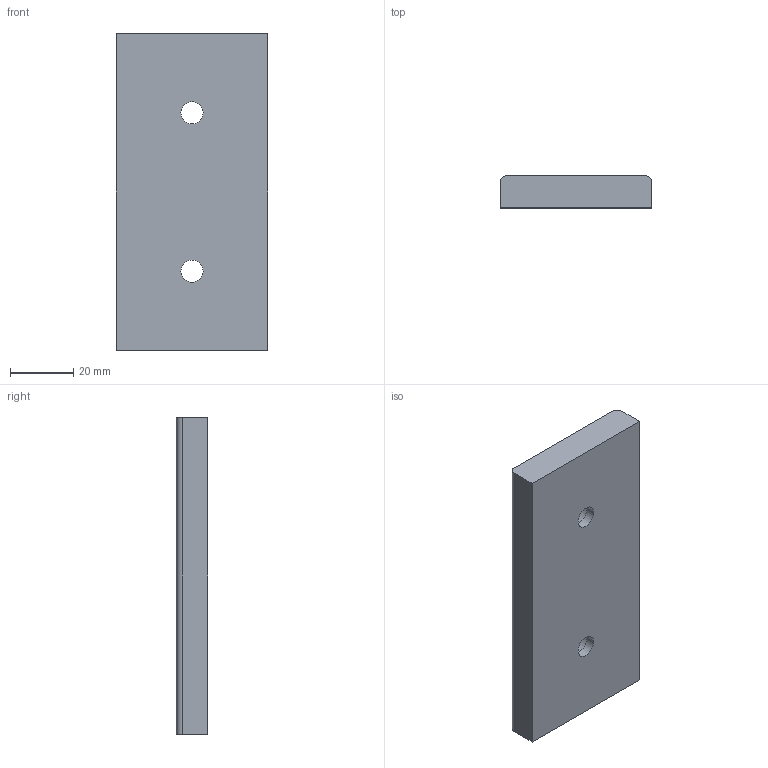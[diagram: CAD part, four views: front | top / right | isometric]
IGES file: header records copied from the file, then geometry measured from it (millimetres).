
Start section: Data from Parasolid IGES Translator 20.0.26, Copyright(c) 2006 Siemens P LM Software. All Rights Reserved.
Global section: file name: G220-01-048-100.igs; native system: By Siemens PLM Incorporated; preprocessor: XPlus GENERIC/IGES 20.0.26; author: Noname; organization: Noname; date: 20190708.082223; units: millimetre
Bounding box: 48 x 10 x 100 mm (x, y, z)
Surface area: 12846.7 mm2 (no closed solid volume)
Topology: 0 solids, 0 shells, 14 faces, 60 edges, 54 vertices
Faces by surface type: extrusion 8, revolution 6
